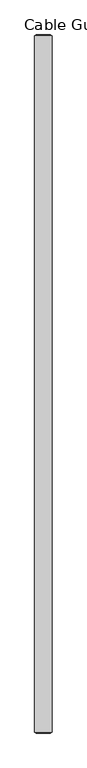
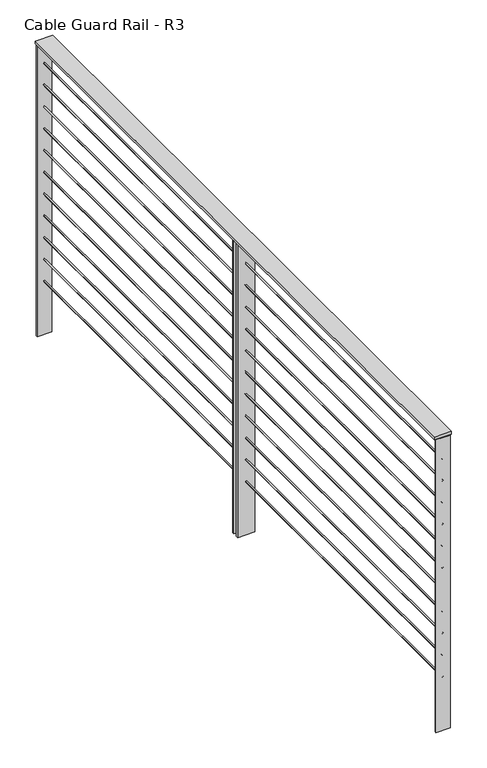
"""IFC4 building model written with IfcOpenShell, lengths in millimetres: railing geometry, Cable Guard Rail - R3."""

from ifc_helpers import new_model, si_unit, point, frame, frame_2d, origin, place, context, project, spatial, polyline, circle_curve, trimmed, segment, composite_curve, outline, extrude, source, transform, mapped, element, save


def cable_guard_rail_r3_f430ca44(model_context):
    return source(origin(), model_context, "Body", "SweptSolid", [
        extrude(outline(polyline([(40071.6390585, 185178.0585669), (39995.4390585, 185178.0585669), (39995.4390585, 188223.6056087), (40071.6390585, 188223.6056087), (40071.6390585, 185178.0585669)])), frame((0.0, 0.0, 294887.65), z_axis=(0.0, 0.0, 1.0), x_axis=(1.0, 0.0, 0.0)), (0.0, 0.0, 1.0), 12.7),
        extrude(outline(composite_curve([segment(trimmed(circle_curve(frame_2d((294786.05, 40033.5390585)), 3.175), [point((294786.05, 40030.3640585))], [point((294786.05, 40036.7140585))], False, "CARTESIAN"), True, "CONTINUOUS"), segment(trimmed(circle_curve(frame_2d((294786.05, 40033.5390585)), 3.175), [point((294786.05, 40036.7140585))], [point((294786.05, 40030.3640585))], False, "CARTESIAN"), True, "CONTINUOUS")], self_intersect=False)), frame((0.0, 185178.0585669, 0.0), z_axis=(0.0, 1.0, 0.0), x_axis=(0.0, 0.0, 1.0)), (0.0, 0.0, 1.0), 3045.5470418),
        extrude(outline(composite_curve([segment(trimmed(circle_curve(frame_2d((294684.45, 40033.5390585)), 3.175), [point((294684.45, 40030.3640585))], [point((294684.45, 40036.7140585))], False, "CARTESIAN"), True, "CONTINUOUS"), segment(trimmed(circle_curve(frame_2d((294684.45, 40033.5390585)), 3.175), [point((294684.45, 40036.7140585))], [point((294684.45, 40030.3640585))], False, "CARTESIAN"), True, "CONTINUOUS")], self_intersect=False)), frame((0.0, 185178.0585669, 0.0), z_axis=(0.0, 1.0, 0.0), x_axis=(0.0, 0.0, 1.0)), (0.0, 0.0, 1.0), 3045.5470418),
        extrude(outline(composite_curve([segment(trimmed(circle_curve(frame_2d((294582.85, 40033.5390585)), 3.175), [point((294582.85, 40030.3640585))], [point((294582.85, 40036.7140585))], False, "CARTESIAN"), True, "CONTINUOUS"), segment(trimmed(circle_curve(frame_2d((294582.85, 40033.5390585)), 3.175), [point((294582.85, 40036.7140585))], [point((294582.85, 40030.3640585))], False, "CARTESIAN"), True, "CONTINUOUS")], self_intersect=False)), frame((0.0, 185178.0585669, 0.0), z_axis=(0.0, 1.0, 0.0), x_axis=(0.0, 0.0, 1.0)), (0.0, 0.0, 1.0), 3045.5470418),
        extrude(outline(composite_curve([segment(trimmed(circle_curve(frame_2d((294481.25, 40033.5390585)), 3.175), [point((294481.25, 40030.3640585))], [point((294481.25, 40036.7140585))], False, "CARTESIAN"), True, "CONTINUOUS"), segment(trimmed(circle_curve(frame_2d((294481.25, 40033.5390585)), 3.175), [point((294481.25, 40036.7140585))], [point((294481.25, 40030.3640585))], False, "CARTESIAN"), True, "CONTINUOUS")], self_intersect=False)), frame((0.0, 185178.0585669, 0.0), z_axis=(0.0, 1.0, 0.0), x_axis=(0.0, 0.0, 1.0)), (0.0, 0.0, 1.0), 3045.5470418),
        extrude(outline(composite_curve([segment(trimmed(circle_curve(frame_2d((294379.65, 40033.5390585)), 3.175), [point((294379.65, 40030.3640585))], [point((294379.65, 40036.7140585))], False, "CARTESIAN"), True, "CONTINUOUS"), segment(trimmed(circle_curve(frame_2d((294379.65, 40033.5390585)), 3.175), [point((294379.65, 40036.7140585))], [point((294379.65, 40030.3640585))], False, "CARTESIAN"), True, "CONTINUOUS")], self_intersect=False)), frame((0.0, 185178.0585669, 0.0), z_axis=(0.0, 1.0, 0.0), x_axis=(0.0, 0.0, 1.0)), (0.0, 0.0, 1.0), 3045.5470418),
        extrude(outline(composite_curve([segment(trimmed(circle_curve(frame_2d((294278.05, 40033.5390585)), 3.175), [point((294278.05, 40030.3640585))], [point((294278.05, 40036.7140585))], False, "CARTESIAN"), True, "CONTINUOUS"), segment(trimmed(circle_curve(frame_2d((294278.05, 40033.5390585)), 3.175), [point((294278.05, 40036.7140585))], [point((294278.05, 40030.3640585))], False, "CARTESIAN"), True, "CONTINUOUS")], self_intersect=False)), frame((0.0, 185178.0585669, 0.0), z_axis=(0.0, 1.0, 0.0), x_axis=(0.0, 0.0, 1.0)), (0.0, 0.0, 1.0), 3045.5470418),
        extrude(outline(composite_curve([segment(trimmed(circle_curve(frame_2d((294176.45, 40033.5390585)), 3.175), [point((294176.45, 40030.3640585))], [point((294176.45, 40036.7140585))], False, "CARTESIAN"), True, "CONTINUOUS"), segment(trimmed(circle_curve(frame_2d((294176.45, 40033.5390585)), 3.175), [point((294176.45, 40036.7140585))], [point((294176.45, 40030.3640585))], False, "CARTESIAN"), True, "CONTINUOUS")], self_intersect=False)), frame((0.0, 185178.0585669, 0.0), z_axis=(0.0, 1.0, 0.0), x_axis=(0.0, 0.0, 1.0)), (0.0, 0.0, 1.0), 3045.5470418),
        extrude(outline(composite_curve([segment(trimmed(circle_curve(frame_2d((294074.85, 40033.5390585)), 3.175), [point((294074.85, 40030.3640585))], [point((294074.85, 40036.7140585))], False, "CARTESIAN"), True, "CONTINUOUS"), segment(trimmed(circle_curve(frame_2d((294074.85, 40033.5390585)), 3.175), [point((294074.85, 40036.7140585))], [point((294074.85, 40030.3640585))], False, "CARTESIAN"), True, "CONTINUOUS")], self_intersect=False)), frame((0.0, 185178.0585669, 0.0), z_axis=(0.0, 1.0, 0.0), x_axis=(0.0, 0.0, 1.0)), (0.0, 0.0, 1.0), 3045.5470418),
        extrude(outline(composite_curve([segment(trimmed(circle_curve(frame_2d((293973.25, 40033.5390585)), 3.175), [point((293973.25, 40030.3640585))], [point((293973.25, 40036.7140585))], False, "CARTESIAN"), True, "CONTINUOUS"), segment(trimmed(circle_curve(frame_2d((293973.25, 40033.5390585)), 3.175), [point((293973.25, 40036.7140585))], [point((293973.25, 40030.3640585))], False, "CARTESIAN"), True, "CONTINUOUS")], self_intersect=False)), frame((0.0, 185178.0585669, 0.0), z_axis=(0.0, 1.0, 0.0), x_axis=(0.0, 0.0, 1.0)), (0.0, 0.0, 1.0), 3045.5470418),
        extrude(outline(composite_curve([segment(trimmed(circle_curve(frame_2d((293871.65, 40033.5390585)), 3.175), [point((293871.65, 40030.3640585))], [point((293871.65, 40036.7140585))], False, "CARTESIAN"), True, "CONTINUOUS"), segment(trimmed(circle_curve(frame_2d((293871.65, 40033.5390585)), 3.175), [point((293871.65, 40036.7140585))], [point((293871.65, 40030.3640585))], False, "CARTESIAN"), True, "CONTINUOUS")], self_intersect=False)), frame((0.0, 185178.0585669, 0.0), z_axis=(0.0, 1.0, 0.0), x_axis=(0.0, 0.0, 1.0)), (0.0, 0.0, 1.0), 3045.5470418),
        extrude(outline(composite_curve([segment(trimmed(circle_curve(frame_2d((293770.05, 40033.5390585)), 3.175), [point((293770.05, 40030.3640585))], [point((293770.05, 40036.7140585))], False, "CARTESIAN"), True, "CONTINUOUS"), segment(trimmed(circle_curve(frame_2d((293770.05, 40033.5390585)), 3.175), [point((293770.05, 40036.7140585))], [point((293770.05, 40030.3640585))], False, "CARTESIAN"), True, "CONTINUOUS")], self_intersect=False)), frame((0.0, 185178.0585669, 0.0), z_axis=(0.0, 1.0, 0.0), x_axis=(0.0, 0.0, 1.0)), (0.0, 0.0, 1.0), 3045.5470418),
        extrude(outline(polyline([(39995.4390585, 186678.6070878), (39995.4390585, 186688.1320878), (40071.6390585, 186688.1320878), (40071.6390585, 186678.6070878), (39995.4390585, 186678.6070878)])), frame((0.0, 0.0, 293522.4), z_axis=(0.0, 0.0, 1.0), x_axis=(1.0, 0.0, 0.0)), (0.0, 0.0, 1.0), 1365.25),
        extrude(outline(polyline([(39995.4390585, 186707.1820878), (39995.4390585, 186716.6588524), (40071.6390585, 186716.6588524), (40071.6390585, 186707.1820878), (39995.4390585, 186707.1820878)])), frame((0.0, 0.0, 293522.4), z_axis=(0.0, 0.0, 1.0), x_axis=(1.0, 0.0, 0.0)), (0.0, 0.0, 1.0), 1365.25),
        extrude(outline(polyline([(40001.7890585, 188220.4306087), (40001.7890585, 188226.7806087), (40065.2890585, 188226.7806087), (40065.2890585, 188220.4306087), (40001.7890585, 188220.4306087)])), frame((0.0, 0.0, 293522.4), z_axis=(0.0, 0.0, 1.0), x_axis=(1.0, 0.0, 0.0)), (0.0, 0.0, 1.0), 1365.25),
        extrude(outline(polyline([(40001.7890585, 185174.8835669), (40001.7890585, 185181.2335669), (40065.2890585, 185181.2335669), (40065.2890585, 185174.8835669), (40001.7890585, 185174.8835669)])), frame((0.0, 0.0, 293522.4), z_axis=(0.0, 0.0, 1.0), x_axis=(1.0, 0.0, 0.0)), (0.0, 0.0, 1.0), 1365.25),
    ])


if __name__ == "__main__":
    model = new_model("IFC4")
    model_context = context("Model", 3, world=origin())
    ifc_project = project(units=[si_unit("LENGTHUNIT", "METRE", prefix="MILLI")], contexts=[model_context])
    site = spatial("IfcSite", under=ifc_project)
    building = spatial("IfcBuilding", under=site)
    placement = place(None, origin())
    cable_guard_rail_r3_shape = cable_guard_rail_r3_f430ca44(model_context)
    element("IfcRailing", 1, ObjectType="Cable Guard Rail - R3", at=placement, inside=building, context=model_context, shape_type="MappedRepresentation", body=[
        mapped(cable_guard_rail_r3_shape, transform((0.0, 0.0, 0.0), x_axis=(1.0, 0.0, 0.0), y_axis=(0.0, 1.0, 0.0), z_axis=(0.0, 0.0, 1.0))),
    ])
    save(model, "model.ifc")
